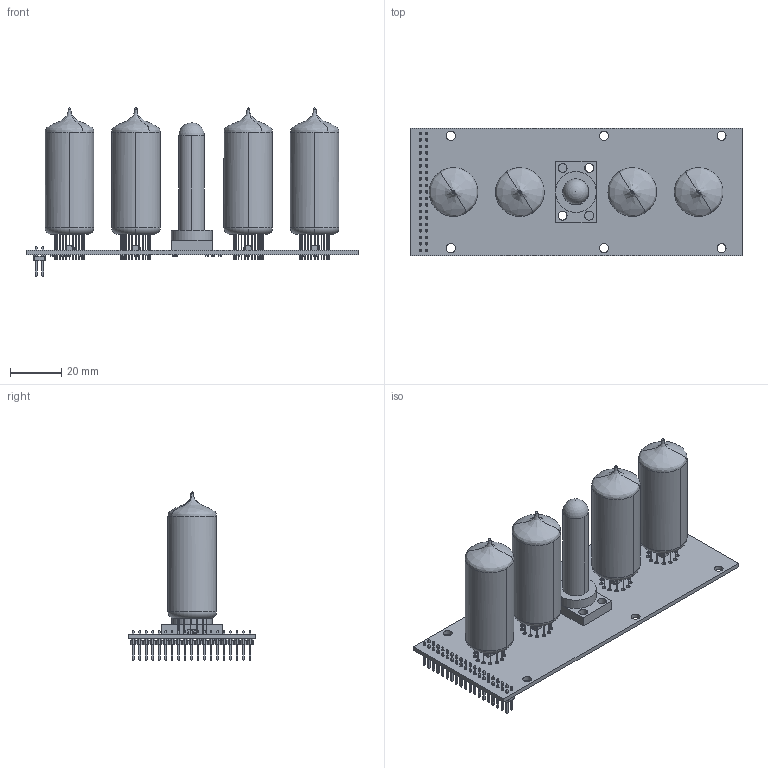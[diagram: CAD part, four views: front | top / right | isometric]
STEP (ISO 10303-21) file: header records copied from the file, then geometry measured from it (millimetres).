
FILE_DESCRIPTION(('Open CASCADE Model'),'2;1');
FILE_NAME('Open CASCADE Shape Model','2021-11-25T03:21:33',('Author'),( 'Open CASCADE'),'Open CASCADE STEP processor 6.8','Open CASCADE 6.8' ,'Unknown');
FILE_SCHEMA(('AUTOMOTIVE_DESIGN { 1 0 10303 214 1 1 1 1 }'));
Length unit declared in the file: millimetre
Products named in the file (1): PCB
Bounding box: 130 x 50 x 65.81 mm (x, y, z)
Volume: 13605.7 mm3; surface area: 32940.4 mm2
Topology: 3 solids, 1528 shells, 2500 faces, 9539 edges, 8345 vertices
Faces by surface type: plane 1564, cylinder 742, sphere 170, bspline 16, torus 8
Full cylindrical faces by diameter (mm): 0.9 x42, 1.4 x52, 2 x2, 3.5 x8
Entity records: 113115 total; most frequent: CARTESIAN_POINT 22447, DIRECTION 16169, ORIENTED_EDGE 11328, EDGE_CURVE 9369, VERTEX_POINT 8345, LINE 7439, VECTOR 7439, AXIS2_PLACEMENT_3D 4365
